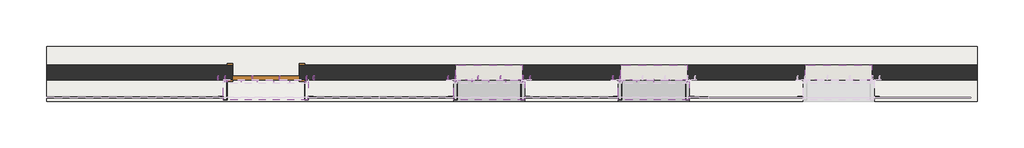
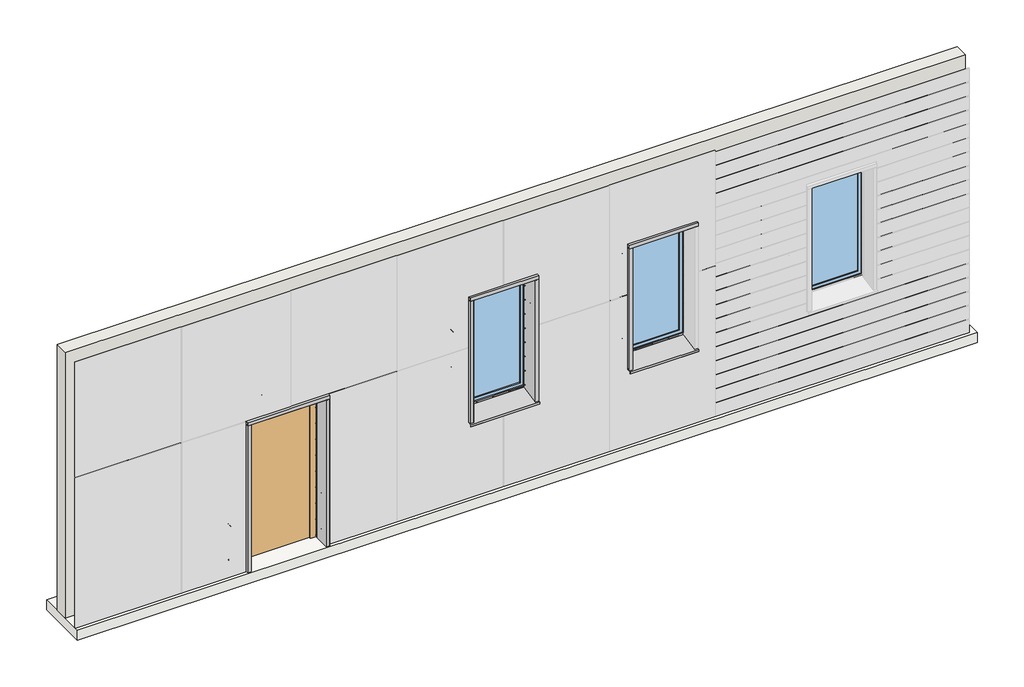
# One storey, part 1 of 2: 112 proxies, 3 windows, 1 door, 1 slab, 1 wall.
"""IFC4 building model written with IfcOpenShell, lengths in millimetres."""

from ifc_helpers import new_model, si_unit, frame, origin, place, context, project, spatial, polyline, outline, extrude, transform, mapped, element, save
from components import generic_models_632e174b, generic_models_137cf94e, generic_models_65506e06, generic_models_87b4bbea, generic_models_17260e46, generic_models_9d7912f3, generic_models_d4227f03, generic_models_8da37be1, generic_models_99237ce8, door_6a9e8738, window_5d6e8bc1

model = new_model("IFC4")

# Units and contexts
model_context = context("Model", 3, world=origin())
ifc_project = project(units=[si_unit("LENGTHUNIT", "METRE", prefix="MILLI")], contexts=[model_context])

# Site, building, storey
site = spatial("IfcSite", under=ifc_project)
building = spatial("IfcBuilding", under=site)
storey = spatial("IfcBuildingStorey", under=building, Name="Уровень 1", Elevation=0.0)

# Proxies
placement = place(None, origin())
generic_models_shape = generic_models_632e174b(model_context)
element("IfcBuildingElementProxy", 1, Name="ALT_Дюбель-гвоздь : 8х60", ObjectType="ALT_Дюбель-гвоздь : 8х60", at=placement, inside=storey, context=model_context, shape_type="MappedRepresentation", body=[
    mapped(generic_models_shape, transform((6649.3, -0.8, 1812.6666667), x_axis=(1.0, 0.0, 0.0), y_axis=(0.0, 0.0, 1.0), z_axis=(0.0, -1.0, 0.0))),
])
element("IfcBuildingElementProxy", 2, Name="ALT_Дюбель-гвоздь : 8х60", ObjectType="ALT_Дюбель-гвоздь : 8х60", at=placement, inside=storey, context=model_context, shape_type="MappedRepresentation", body=[
    mapped(generic_models_shape, transform((6649.3, -0.8, 2381.3333333), x_axis=(1.0, 0.0, 0.0), y_axis=(0.0, 0.0, 1.0), z_axis=(0.0, -1.0, 0.0))),
])
element("IfcBuildingElementProxy", 3, Name="ALT_Дюбель-гвоздь : 8х60", ObjectType="ALT_Дюбель-гвоздь : 8х60", at=placement, inside=storey, context=model_context, shape_type="MappedRepresentation", body=[
    mapped(generic_models_shape, transform((6649.3, -0.8, 1244.0), x_axis=(1.0, 0.0, 0.0), y_axis=(0.0, 0.0, 1.0), z_axis=(0.0, -1.0, 0.0))),
])
element("IfcBuildingElementProxy", 4, Name="ALT_Дюбель-гвоздь : 8х60", ObjectType="ALT_Дюбель-гвоздь : 8х60", at=placement, inside=storey, context=model_context, shape_type="MappedRepresentation", body=[
    mapped(generic_models_shape, transform((5520.7, -0.8, 1812.6666667), x_axis=(0.0, 0.0, 1.0), y_axis=(-1.0, 0.0, 0.0), z_axis=(0.0, -1.0, 0.0))),
])
element("IfcBuildingElementProxy", 5, Name="ALT_Дюбель-гвоздь : 8х60", ObjectType="ALT_Дюбель-гвоздь : 8х60", at=placement, inside=storey, context=model_context, shape_type="MappedRepresentation", body=[
    mapped(generic_models_shape, transform((5520.7, -0.8, 2381.3333333), x_axis=(0.0, 0.0, 1.0), y_axis=(-1.0, 0.0, 0.0), z_axis=(0.0, -1.0, 0.0))),
])
element("IfcBuildingElementProxy", 6, Name="ALT_Дюбель-гвоздь : 8х60", ObjectType="ALT_Дюбель-гвоздь : 8х60", at=placement, inside=storey, context=model_context, shape_type="MappedRepresentation", body=[
    mapped(generic_models_shape, transform((5520.7, -0.8, 1244.0), x_axis=(0.0, 0.0, 1.0), y_axis=(-1.0, 0.0, 0.0), z_axis=(0.0, -1.0, 0.0))),
])
element("IfcBuildingElementProxy", 7, Name="ALT_Дюбель-гвоздь : 8х60", ObjectType="ALT_Дюбель-гвоздь : 8х60", at=placement, inside=storey, context=model_context, shape_type="MappedRepresentation", body=[
    mapped(generic_models_shape, transform((5930.5, -0.8, 3100.8), x_axis=(1.0, 0.0, 0.0), y_axis=(0.0, 0.0, 1.0), z_axis=(0.0, -1.0, 0.0))),
])
element("IfcBuildingElementProxy", 8, Name="ALT_Дюбель-гвоздь : 8х60", ObjectType="ALT_Дюбель-гвоздь : 8х60", at=placement, inside=storey, context=model_context, shape_type="MappedRepresentation", body=[
    mapped(generic_models_shape, transform((6548.5, -0.8, 3100.8), x_axis=(1.0, 0.0, 0.0), y_axis=(0.0, 0.0, 1.0), z_axis=(0.0, -1.0, 0.0))),
])
element("IfcBuildingElementProxy", 9, Name="ALT_Дюбель-гвоздь : 8х60", ObjectType="ALT_Дюбель-гвоздь : 8х60", at=placement, inside=storey, context=model_context, shape_type="MappedRepresentation", body=[
    mapped(generic_models_shape, transform((6649.3, -0.8, 2950.0), x_axis=(1.0, 0.0, 0.0), y_axis=(0.0, 0.0, 1.0), z_axis=(0.0, -1.0, 0.0))),
])
element("IfcBuildingElementProxy", 10, Name="ALT_Дюбель-гвоздь : 8х60", ObjectType="ALT_Дюбель-гвоздь : 8х60", at=placement, inside=storey, context=model_context, shape_type="MappedRepresentation", body=[
    mapped(generic_models_shape, transform((5621.5, -0.8, 3100.8), x_axis=(1.0, 0.0, 0.0), y_axis=(0.0, 0.0, 1.0), z_axis=(0.0, -1.0, 0.0))),
])
element("IfcBuildingElementProxy", 11, Name="ALT_Дюбель-гвоздь : 8х60", ObjectType="ALT_Дюбель-гвоздь : 8х60", at=placement, inside=storey, context=model_context, shape_type="MappedRepresentation", body=[
    mapped(generic_models_shape, transform((5520.7, -0.8, 2950.0), x_axis=(0.0, 0.0, 1.0), y_axis=(-1.0, 0.0, 0.0), z_axis=(0.0, -1.0, 0.0))),
])
element("IfcBuildingElementProxy", 12, Name="ALT_Дюбель-гвоздь : 8х60", ObjectType="ALT_Дюбель-гвоздь : 8х60", at=placement, inside=storey, context=model_context, shape_type="MappedRepresentation", body=[
    mapped(generic_models_shape, transform((6239.5, -0.8, 3100.8), x_axis=(1.0, 0.0, 0.0), y_axis=(0.0, 0.0, 1.0), z_axis=(0.0, -1.0, 0.0))),
])
element("IfcBuildingElementProxy", 13, Name="ALT_Дюбель-гвоздь : 8х60", ObjectType="ALT_Дюбель-гвоздь : 8х60", at=placement, inside=storey, context=model_context, shape_type="MappedRepresentation", body=[
    mapped(generic_models_shape, transform((7785.7, -0.8, 1812.6666667), x_axis=(0.0, 0.0, 1.0), y_axis=(-1.0, 0.0, 0.0), z_axis=(0.0, -1.0, 0.0))),
])
element("IfcBuildingElementProxy", 14, Name="ALT_Дюбель-гвоздь : 8х60", ObjectType="ALT_Дюбель-гвоздь : 8х60", at=placement, inside=storey, context=model_context, shape_type="MappedRepresentation", body=[
    mapped(generic_models_shape, transform((7785.7, -0.8, 2381.3333333), x_axis=(0.0, 0.0, 1.0), y_axis=(-1.0, 0.0, 0.0), z_axis=(0.0, -1.0, 0.0))),
])
element("IfcBuildingElementProxy", 15, Name="ALT_Дюбель-гвоздь : 8х60", ObjectType="ALT_Дюбель-гвоздь : 8х60", at=placement, inside=storey, context=model_context, shape_type="MappedRepresentation", body=[
    mapped(generic_models_shape, transform((7785.7, -0.8, 1244.0), x_axis=(0.0, 0.0, 1.0), y_axis=(-1.0, 0.0, 0.0), z_axis=(0.0, -1.0, 0.0))),
])
element("IfcBuildingElementProxy", 16, Name="ALT_Дюбель-гвоздь : 8х60", ObjectType="ALT_Дюбель-гвоздь : 8х60", at=placement, inside=storey, context=model_context, shape_type="MappedRepresentation", body=[
    mapped(generic_models_shape, transform((7886.5, -0.8, 3100.8), x_axis=(1.0, 0.0, 0.0), y_axis=(0.0, 0.0, 1.0), z_axis=(0.0, -1.0, 0.0))),
])
element("IfcBuildingElementProxy", 17, Name="ALT_Дюбель-гвоздь : 8х60", ObjectType="ALT_Дюбель-гвоздь : 8х60", at=placement, inside=storey, context=model_context, shape_type="MappedRepresentation", body=[
    mapped(generic_models_shape, transform((7785.7, -0.8, 2950.0), x_axis=(0.0, 0.0, 1.0), y_axis=(-1.0, 0.0, 0.0), z_axis=(0.0, -1.0, 0.0))),
])
element("IfcBuildingElementProxy", 18, Name="ALT_Дюбель-гвоздь : 8х60", ObjectType="ALT_Дюбель-гвоздь : 8х60", at=placement, inside=storey, context=model_context, shape_type="MappedRepresentation", body=[
    mapped(generic_models_shape, transform((3674.3, -0.8, 2185.0), x_axis=(1.0, 0.0, 0.0), y_axis=(0.0, 0.0, 1.0), z_axis=(0.0, -1.0, 0.0))),
])
element("IfcBuildingElementProxy", 19, Name="ALT_Дюбель-гвоздь : 8х60", ObjectType="ALT_Дюбель-гвоздь : 8х60", at=placement, inside=storey, context=model_context, shape_type="MappedRepresentation", body=[
    mapped(generic_models_shape, transform((2355.7, -0.8, 2185.0), x_axis=(0.0, 0.0, 1.0), y_axis=(-1.0, 0.0, 0.0), z_axis=(0.0, -1.0, 0.0))),
])
element("IfcBuildingElementProxy", 20, Name="ALT_Дюбель-гвоздь : 8х60", ObjectType="ALT_Дюбель-гвоздь : 8х60", at=placement, inside=storey, context=model_context, shape_type="MappedRepresentation", body=[
    mapped(generic_models_shape, transform((2828.8333333, -0.8, 2335.8), x_axis=(1.0, 0.0, 0.0), y_axis=(0.0, 0.0, 1.0), z_axis=(0.0, -1.0, 0.0))),
])
element("IfcBuildingElementProxy", 21, Name="ALT_Дюбель-гвоздь : 8х60", ObjectType="ALT_Дюбель-гвоздь : 8х60", at=placement, inside=storey, context=model_context, shape_type="MappedRepresentation", body=[
    mapped(generic_models_shape, transform((3573.5, -0.8, 2335.8), x_axis=(1.0, 0.0, 0.0), y_axis=(0.0, 0.0, 1.0), z_axis=(0.0, -1.0, 0.0))),
])
element("IfcBuildingElementProxy", 22, Name="ALT_Дюбель-гвоздь : 8х60", ObjectType="ALT_Дюбель-гвоздь : 8х60", at=placement, inside=storey, context=model_context, shape_type="MappedRepresentation", body=[
    mapped(generic_models_shape, transform((2456.5, -0.8, 2335.8), x_axis=(1.0, 0.0, 0.0), y_axis=(0.0, 0.0, 1.0), z_axis=(0.0, -1.0, 0.0))),
])
element("IfcBuildingElementProxy", 23, Name="ALT_Дюбель-гвоздь : 8х60", ObjectType="ALT_Дюбель-гвоздь : 8х60", at=placement, inside=storey, context=model_context, shape_type="MappedRepresentation", body=[
    mapped(generic_models_shape, transform((2355.7, -0.8, 25.0), x_axis=(0.0, 0.0, 1.0), y_axis=(-1.0, 0.0, 0.0), z_axis=(0.0, -1.0, 0.0))),
])
element("IfcBuildingElementProxy", 24, Name="ALT_Дюбель-гвоздь : 8х60", ObjectType="ALT_Дюбель-гвоздь : 8х60", at=placement, inside=storey, context=model_context, shape_type="MappedRepresentation", body=[
    mapped(generic_models_shape, transform((3201.1666667, -0.8, 2335.8), x_axis=(1.0, 0.0, 0.0), y_axis=(0.0, 0.0, 1.0), z_axis=(0.0, -1.0, 0.0))),
])
element("IfcBuildingElementProxy", 25, Name="ALT_Дюбель-гвоздь : 8х60", ObjectType="ALT_Дюбель-гвоздь : 8х60", at=placement, inside=storey, context=model_context, shape_type="MappedRepresentation", body=[
    mapped(generic_models_shape, transform((2355.7, -0.8, 1645.0), x_axis=(0.0, 0.0, 1.0), y_axis=(-1.0, 0.0, 0.0), z_axis=(0.0, -1.0, 0.0))),
])
element("IfcBuildingElementProxy", 26, Name="ALT_Дюбель-гвоздь : 8х60", ObjectType="ALT_Дюбель-гвоздь : 8х60", at=placement, inside=storey, context=model_context, shape_type="MappedRepresentation", body=[
    mapped(generic_models_shape, transform((3674.3, -0.8, 25.0), x_axis=(1.0, 0.0, 0.0), y_axis=(0.0, 0.0, 1.0), z_axis=(0.0, -1.0, 0.0))),
])
element("IfcBuildingElementProxy", 27, Name="ALT_Дюбель-гвоздь : 8х60", ObjectType="ALT_Дюбель-гвоздь : 8х60", at=placement, inside=storey, context=model_context, shape_type="MappedRepresentation", body=[
    mapped(generic_models_shape, transform((2355.7, -0.8, 1105.0), x_axis=(0.0, 0.0, 1.0), y_axis=(-1.0, 0.0, 0.0), z_axis=(0.0, -1.0, 0.0))),
])
element("IfcBuildingElementProxy", 28, Name="ALT_Дюбель-гвоздь : 8х60", ObjectType="ALT_Дюбель-гвоздь : 8х60", at=placement, inside=storey, context=model_context, shape_type="MappedRepresentation", body=[
    mapped(generic_models_shape, transform((3674.3, -0.8, 1645.0), x_axis=(1.0, 0.0, 0.0), y_axis=(0.0, 0.0, 1.0), z_axis=(0.0, -1.0, 0.0))),
])
element("IfcBuildingElementProxy", 29, Name="ALT_Дюбель-гвоздь : 8х60", ObjectType="ALT_Дюбель-гвоздь : 8х60", at=placement, inside=storey, context=model_context, shape_type="MappedRepresentation", body=[
    mapped(generic_models_shape, transform((3674.3, -0.8, 565.0), x_axis=(1.0, 0.0, 0.0), y_axis=(0.0, 0.0, 1.0), z_axis=(0.0, -1.0, 0.0))),
])
element("IfcBuildingElementProxy", 30, Name="ALT_Дюбель-гвоздь : 8х60", ObjectType="ALT_Дюбель-гвоздь : 8х60", at=placement, inside=storey, context=model_context, shape_type="MappedRepresentation", body=[
    mapped(generic_models_shape, transform((2355.7, -0.8, 565.0), x_axis=(0.0, 0.0, 1.0), y_axis=(-1.0, 0.0, 0.0), z_axis=(0.0, -1.0, 0.0))),
])
element("IfcBuildingElementProxy", 31, Name="ALT_Дюбель-гвоздь : 8х60", ObjectType="ALT_Дюбель-гвоздь : 8х60", at=placement, inside=storey, context=model_context, shape_type="MappedRepresentation", body=[
    mapped(generic_models_shape, transform((3674.3, -0.8, 1105.0), x_axis=(1.0, 0.0, 0.0), y_axis=(0.0, 0.0, 1.0), z_axis=(0.0, -1.0, 0.0))),
])
generic_models_2_shape = generic_models_137cf94e(model_context)
element("IfcBuildingElementProxy", 32, Name="ALT_Заклёпка вытяжная : ∅4x6_А2/А2", ObjectType="ALT_Заклёпка вытяжная : ∅4x6_А2/А2", at=placement, inside=storey, context=model_context, shape_type="MappedRepresentation", body=[
    mapped(generic_models_2_shape, transform((6085.0, -0.8, 1204.0), x_axis=(-1.0, 0.0, 0.0), y_axis=(0.0, 0.0, -1.0), z_axis=(0.0, -1.0, 0.0))),
])
element("IfcBuildingElementProxy", 33, Name="ALT_Заклёпка вытяжная : ∅4x6_А2/А2", ObjectType="ALT_Заклёпка вытяжная : ∅4x6_А2/А2", at=placement, inside=storey, context=model_context, shape_type="MappedRepresentation", body=[
    mapped(generic_models_2_shape, transform((5853.25, -0.8, 1204.0), x_axis=(-1.0, 0.0, 0.0), y_axis=(0.0, 0.0, -1.0), z_axis=(0.0, -1.0, 0.0))),
])
element("IfcBuildingElementProxy", 34, Name="ALT_Заклёпка вытяжная : ∅4x6_А2/А2", ObjectType="ALT_Заклёпка вытяжная : ∅4x6_А2/А2", at=placement, inside=storey, context=model_context, shape_type="MappedRepresentation", body=[
    mapped(generic_models_2_shape, transform((6548.5, -0.8, 1204.0), x_axis=(-1.0, 0.0, 0.0), y_axis=(0.0, 0.0, -1.0), z_axis=(0.0, -1.0, 0.0))),
])
element("IfcBuildingElementProxy", 35, Name="ALT_Заклёпка вытяжная : ∅4x6_А2/А2", ObjectType="ALT_Заклёпка вытяжная : ∅4x6_А2/А2", at=placement, inside=storey, context=model_context, shape_type="MappedRepresentation", body=[
    mapped(generic_models_2_shape, transform((5621.5, -0.8, 1204.0), x_axis=(-1.0, 0.0, 0.0), y_axis=(0.0, 0.0, -1.0), z_axis=(0.0, -1.0, 0.0))),
])
element("IfcBuildingElementProxy", 36, Name="ALT_Заклёпка вытяжная : ∅4x6_А2/А2", ObjectType="ALT_Заклёпка вытяжная : ∅4x6_А2/А2", at=placement, inside=storey, context=model_context, shape_type="MappedRepresentation", body=[
    mapped(generic_models_2_shape, transform((6085.0, -25.0, 2975.0), x_axis=(-1.0, 0.0, 0.0), y_axis=(0.0, 1.0, 0.0), z_axis=(0.0, 0.0, -1.0))),
])
element("IfcBuildingElementProxy", 37, Name="ALT_Заклёпка вытяжная : ∅4x6_А2/А2", ObjectType="ALT_Заклёпка вытяжная : ∅4x6_А2/А2", at=placement, inside=storey, context=model_context, shape_type="MappedRepresentation", body=[
    mapped(generic_models_2_shape, transform((5853.25, -25.0, 2975.0), x_axis=(-1.0, 0.0, 0.0), y_axis=(0.0, 1.0, 0.0), z_axis=(0.0, 0.0, -1.0))),
])
element("IfcBuildingElementProxy", 38, Name="ALT_Заклёпка вытяжная : ∅4x6_А2/А2", ObjectType="ALT_Заклёпка вытяжная : ∅4x6_А2/А2", at=placement, inside=storey, context=model_context, shape_type="MappedRepresentation", body=[
    mapped(generic_models_2_shape, transform((6548.5, -25.0, 2975.0), x_axis=(-1.0, 0.0, 0.0), y_axis=(0.0, 1.0, 0.0), z_axis=(0.0, 0.0, -1.0))),
])
element("IfcBuildingElementProxy", 39, Name="ALT_Заклёпка вытяжная : ∅4x6_А2/А2", ObjectType="ALT_Заклёпка вытяжная : ∅4x6_А2/А2", at=placement, inside=storey, context=model_context, shape_type="MappedRepresentation", body=[
    mapped(generic_models_2_shape, transform((6523.5, -25.0, 1883.75), x_axis=(0.0, 0.0, 1.0), y_axis=(0.0, 1.0, 0.0), z_axis=(-1.0, 0.0, 0.0))),
])
element("IfcBuildingElementProxy", 40, Name="ALT_Заклёпка вытяжная : ∅4x6_А2/А2", ObjectType="ALT_Заклёпка вытяжная : ∅4x6_А2/А2", at=placement, inside=storey, context=model_context, shape_type="MappedRepresentation", body=[
    mapped(generic_models_2_shape, transform((6523.5, -25.0, 2097.0), x_axis=(0.0, 0.0, 1.0), y_axis=(0.0, 1.0, 0.0), z_axis=(-1.0, 0.0, 0.0))),
])
element("IfcBuildingElementProxy", 41, Name="ALT_Заклёпка вытяжная : ∅4x6_А2/А2", ObjectType="ALT_Заклёпка вытяжная : ∅4x6_А2/А2", at=placement, inside=storey, context=model_context, shape_type="MappedRepresentation", body=[
    mapped(generic_models_2_shape, transform((6523.5, -25.0, 2310.25), x_axis=(0.0, 0.0, 1.0), y_axis=(0.0, 1.0, 0.0), z_axis=(-1.0, 0.0, 0.0))),
])
element("IfcBuildingElementProxy", 42, Name="ALT_Заклёпка вытяжная : ∅4x6_А2/А2", ObjectType="ALT_Заклёпка вытяжная : ∅4x6_А2/А2", at=placement, inside=storey, context=model_context, shape_type="MappedRepresentation", body=[
    mapped(generic_models_2_shape, transform((6523.5, -25.0, 2523.5), x_axis=(0.0, 0.0, 1.0), y_axis=(0.0, 1.0, 0.0), z_axis=(-1.0, 0.0, 0.0))),
])
element("IfcBuildingElementProxy", 43, Name="ALT_Заклёпка вытяжная : ∅4x6_А2/А2", ObjectType="ALT_Заклёпка вытяжная : ∅4x6_А2/А2", at=placement, inside=storey, context=model_context, shape_type="MappedRepresentation", body=[
    mapped(generic_models_2_shape, transform((6523.5, -25.0, 2736.75), x_axis=(0.0, 0.0, 1.0), y_axis=(0.0, 1.0, 0.0), z_axis=(-1.0, 0.0, 0.0))),
])
element("IfcBuildingElementProxy", 44, Name="ALT_Заклёпка вытяжная : ∅4x6_А2/А2", ObjectType="ALT_Заклёпка вытяжная : ∅4x6_А2/А2", at=placement, inside=storey, context=model_context, shape_type="MappedRepresentation", body=[
    mapped(generic_models_2_shape, transform((6523.5, -25.0, 1244.0), x_axis=(0.0, 0.0, 1.0), y_axis=(0.0, 1.0, 0.0), z_axis=(-1.0, 0.0, 0.0))),
])
element("IfcBuildingElementProxy", 45, Name="ALT_Заклёпка вытяжная : ∅4x6_А2/А2", ObjectType="ALT_Заклёпка вытяжная : ∅4x6_А2/А2", at=placement, inside=storey, context=model_context, shape_type="MappedRepresentation", body=[
    mapped(generic_models_2_shape, transform((5646.5, -25.0, 1883.75), x_axis=(0.0, 1.0, 0.0), y_axis=(0.0, 0.0, 1.0), z_axis=(1.0, 0.0, 0.0))),
])
element("IfcBuildingElementProxy", 46, Name="ALT_Заклёпка вытяжная : ∅4x6_А2/А2", ObjectType="ALT_Заклёпка вытяжная : ∅4x6_А2/А2", at=placement, inside=storey, context=model_context, shape_type="MappedRepresentation", body=[
    mapped(generic_models_2_shape, transform((5646.5, -25.0, 2097.0), x_axis=(0.0, 1.0, 0.0), y_axis=(0.0, 0.0, 1.0), z_axis=(1.0, 0.0, 0.0))),
])
element("IfcBuildingElementProxy", 47, Name="ALT_Заклёпка вытяжная : ∅4x6_А2/А2", ObjectType="ALT_Заклёпка вытяжная : ∅4x6_А2/А2", at=placement, inside=storey, context=model_context, shape_type="MappedRepresentation", body=[
    mapped(generic_models_2_shape, transform((5646.5, -25.0, 2310.25), x_axis=(0.0, 1.0, 0.0), y_axis=(0.0, 0.0, 1.0), z_axis=(1.0, 0.0, 0.0))),
])
element("IfcBuildingElementProxy", 48, Name="ALT_Заклёпка вытяжная : ∅4x6_А2/А2", ObjectType="ALT_Заклёпка вытяжная : ∅4x6_А2/А2", at=placement, inside=storey, context=model_context, shape_type="MappedRepresentation", body=[
    mapped(generic_models_2_shape, transform((5646.5, -25.0, 2523.5), x_axis=(0.0, 1.0, 0.0), y_axis=(0.0, 0.0, 1.0), z_axis=(1.0, 0.0, 0.0))),
])
element("IfcBuildingElementProxy", 49, Name="ALT_Заклёпка вытяжная : ∅4x6_А2/А2", ObjectType="ALT_Заклёпка вытяжная : ∅4x6_А2/А2", at=placement, inside=storey, context=model_context, shape_type="MappedRepresentation", body=[
    mapped(generic_models_2_shape, transform((5646.5, -25.0, 2736.75), x_axis=(0.0, 1.0, 0.0), y_axis=(0.0, 0.0, 1.0), z_axis=(1.0, 0.0, 0.0))),
])
element("IfcBuildingElementProxy", 50, Name="ALT_Заклёпка вытяжная : ∅4x6_А2/А2", ObjectType="ALT_Заклёпка вытяжная : ∅4x6_А2/А2", at=placement, inside=storey, context=model_context, shape_type="MappedRepresentation", body=[
    mapped(generic_models_2_shape, transform((5646.5, -25.0, 1244.0), x_axis=(0.0, 1.0, 0.0), y_axis=(0.0, 0.0, 1.0), z_axis=(1.0, 0.0, 0.0))),
])
element("IfcBuildingElementProxy", 51, Name="ALT_Заклёпка вытяжная : ∅4x6_А2/А2", ObjectType="ALT_Заклёпка вытяжная : ∅4x6_А2/А2", at=placement, inside=storey, context=model_context, shape_type="MappedRepresentation", body=[
    mapped(generic_models_2_shape, transform((6523.5, -25.0, 2950.0), x_axis=(0.0, 0.0, 1.0), y_axis=(0.0, 1.0, 0.0), z_axis=(-1.0, 0.0, 0.0))),
])
element("IfcBuildingElementProxy", 52, Name="ALT_Заклёпка вытяжная : ∅4x6_А2/А2", ObjectType="ALT_Заклёпка вытяжная : ∅4x6_А2/А2", at=placement, inside=storey, context=model_context, shape_type="MappedRepresentation", body=[
    mapped(generic_models_2_shape, transform((5621.5, -25.0, 2975.0), x_axis=(-1.0, 0.0, 0.0), y_axis=(0.0, 1.0, 0.0), z_axis=(0.0, 0.0, -1.0))),
])
element("IfcBuildingElementProxy", 53, Name="ALT_Заклёпка вытяжная : ∅4x6_А2/А2", ObjectType="ALT_Заклёпка вытяжная : ∅4x6_А2/А2", at=placement, inside=storey, context=model_context, shape_type="MappedRepresentation", body=[
    mapped(generic_models_2_shape, transform((5646.5, -25.0, 2950.0), x_axis=(0.0, 1.0, 0.0), y_axis=(0.0, 0.0, 1.0), z_axis=(1.0, 0.0, 0.0))),
])
element("IfcBuildingElementProxy", 54, Name="ALT_Заклёпка вытяжная : ∅4x6_А2/А2", ObjectType="ALT_Заклёпка вытяжная : ∅4x6_А2/А2", at=placement, inside=storey, context=model_context, shape_type="MappedRepresentation", body=[
    mapped(generic_models_2_shape, transform((6316.75, -0.8, 1204.0), x_axis=(-1.0, 0.0, 0.0), y_axis=(0.0, 0.0, -1.0), z_axis=(0.0, -1.0, 0.0))),
])
element("IfcBuildingElementProxy", 55, Name="ALT_Заклёпка вытяжная : ∅4x6_А2/А2", ObjectType="ALT_Заклёпка вытяжная : ∅4x6_А2/А2", at=placement, inside=storey, context=model_context, shape_type="MappedRepresentation", body=[
    mapped(generic_models_2_shape, transform((6316.75, -25.0, 2975.0), x_axis=(-1.0, 0.0, 0.0), y_axis=(0.0, 1.0, 0.0), z_axis=(0.0, 0.0, -1.0))),
])
element("IfcBuildingElementProxy", 56, Name="ALT_Заклёпка вытяжная : ∅4x6_А2/А2", ObjectType="ALT_Заклёпка вытяжная : ∅4x6_А2/А2", at=placement, inside=storey, context=model_context, shape_type="MappedRepresentation", body=[
    mapped(generic_models_2_shape, transform((5646.5, -25.0, 1457.25), x_axis=(0.0, 1.0, 0.0), y_axis=(0.0, 0.0, 1.0), z_axis=(1.0, 0.0, 0.0))),
])
element("IfcBuildingElementProxy", 57, Name="ALT_Заклёпка вытяжная : ∅4x6_А2/А2", ObjectType="ALT_Заклёпка вытяжная : ∅4x6_А2/А2", at=placement, inside=storey, context=model_context, shape_type="MappedRepresentation", body=[
    mapped(generic_models_2_shape, transform((5646.5, -25.0, 1670.5), x_axis=(0.0, 1.0, 0.0), y_axis=(0.0, 0.0, 1.0), z_axis=(1.0, 0.0, 0.0))),
])
element("IfcBuildingElementProxy", 58, Name="ALT_Заклёпка вытяжная : ∅4x6_А2/А2", ObjectType="ALT_Заклёпка вытяжная : ∅4x6_А2/А2", at=placement, inside=storey, context=model_context, shape_type="MappedRepresentation", body=[
    mapped(generic_models_2_shape, transform((6523.5, -25.0, 1457.25), x_axis=(0.0, 0.0, 1.0), y_axis=(0.0, 1.0, 0.0), z_axis=(-1.0, 0.0, 0.0))),
])
element("IfcBuildingElementProxy", 59, Name="ALT_Заклёпка вытяжная : ∅4x6_А2/А2", ObjectType="ALT_Заклёпка вытяжная : ∅4x6_А2/А2", at=placement, inside=storey, context=model_context, shape_type="MappedRepresentation", body=[
    mapped(generic_models_2_shape, transform((6523.5, -25.0, 1670.5), x_axis=(0.0, 0.0, 1.0), y_axis=(0.0, 1.0, 0.0), z_axis=(-1.0, 0.0, 0.0))),
])
element("IfcBuildingElementProxy", 60, Name="ALT_Заклёпка вытяжная : ∅4x6_А2/А2", ObjectType="ALT_Заклёпка вытяжная : ∅4x6_А2/А2", at=placement, inside=storey, context=model_context, shape_type="MappedRepresentation", body=[
    mapped(generic_models_2_shape, transform((8350.0, -0.8, 1204.0), x_axis=(-1.0, 0.0, 0.0), y_axis=(0.0, 0.0, -1.0), z_axis=(0.0, -1.0, 0.0))),
])
element("IfcBuildingElementProxy", 61, Name="ALT_Заклёпка вытяжная : ∅4x6_А2/А2", ObjectType="ALT_Заклёпка вытяжная : ∅4x6_А2/А2", at=placement, inside=storey, context=model_context, shape_type="MappedRepresentation", body=[
    mapped(generic_models_2_shape, transform((8118.25, -0.8, 1204.0), x_axis=(-1.0, 0.0, 0.0), y_axis=(0.0, 0.0, -1.0), z_axis=(0.0, -1.0, 0.0))),
])
element("IfcBuildingElementProxy", 62, Name="ALT_Заклёпка вытяжная : ∅4x6_А2/А2", ObjectType="ALT_Заклёпка вытяжная : ∅4x6_А2/А2", at=placement, inside=storey, context=model_context, shape_type="MappedRepresentation", body=[
    mapped(generic_models_2_shape, transform((8813.5, -0.8, 1204.0), x_axis=(-1.0, 0.0, 0.0), y_axis=(0.0, 0.0, -1.0), z_axis=(0.0, -1.0, 0.0))),
])
element("IfcBuildingElementProxy", 63, Name="ALT_Заклёпка вытяжная : ∅4x6_А2/А2", ObjectType="ALT_Заклёпка вытяжная : ∅4x6_А2/А2", at=placement, inside=storey, context=model_context, shape_type="MappedRepresentation", body=[
    mapped(generic_models_2_shape, transform((7886.5, -0.8, 1204.0), x_axis=(-1.0, 0.0, 0.0), y_axis=(0.0, 0.0, -1.0), z_axis=(0.0, -1.0, 0.0))),
])
element("IfcBuildingElementProxy", 64, Name="ALT_Заклёпка вытяжная : ∅4x6_А2/А2", ObjectType="ALT_Заклёпка вытяжная : ∅4x6_А2/А2", at=placement, inside=storey, context=model_context, shape_type="MappedRepresentation", body=[
    mapped(generic_models_2_shape, transform((8350.0, -25.0, 2975.0), x_axis=(-1.0, 0.0, 0.0), y_axis=(0.0, 1.0, 0.0), z_axis=(0.0, 0.0, -1.0))),
])
element("IfcBuildingElementProxy", 65, Name="ALT_Заклёпка вытяжная : ∅4x6_А2/А2", ObjectType="ALT_Заклёпка вытяжная : ∅4x6_А2/А2", at=placement, inside=storey, context=model_context, shape_type="MappedRepresentation", body=[
    mapped(generic_models_2_shape, transform((8118.25, -25.0, 2975.0), x_axis=(-1.0, 0.0, 0.0), y_axis=(0.0, 1.0, 0.0), z_axis=(0.0, 0.0, -1.0))),
])
element("IfcBuildingElementProxy", 66, Name="ALT_Заклёпка вытяжная : ∅4x6_А2/А2", ObjectType="ALT_Заклёпка вытяжная : ∅4x6_А2/А2", at=placement, inside=storey, context=model_context, shape_type="MappedRepresentation", body=[
    mapped(generic_models_2_shape, transform((8813.5, -25.0, 2975.0), x_axis=(-1.0, 0.0, 0.0), y_axis=(0.0, 1.0, 0.0), z_axis=(0.0, 0.0, -1.0))),
])
element("IfcBuildingElementProxy", 67, Name="ALT_Заклёпка вытяжная : ∅4x6_А2/А2", ObjectType="ALT_Заклёпка вытяжная : ∅4x6_А2/А2", at=placement, inside=storey, context=model_context, shape_type="MappedRepresentation", body=[
    mapped(generic_models_2_shape, transform((7911.5, -25.0, 1883.75), x_axis=(0.0, 1.0, 0.0), y_axis=(0.0, 0.0, 1.0), z_axis=(1.0, 0.0, 0.0))),
])
element("IfcBuildingElementProxy", 68, Name="ALT_Заклёпка вытяжная : ∅4x6_А2/А2", ObjectType="ALT_Заклёпка вытяжная : ∅4x6_А2/А2", at=placement, inside=storey, context=model_context, shape_type="MappedRepresentation", body=[
    mapped(generic_models_2_shape, transform((7911.5, -25.0, 2097.0), x_axis=(0.0, 1.0, 0.0), y_axis=(0.0, 0.0, 1.0), z_axis=(1.0, 0.0, 0.0))),
])
element("IfcBuildingElementProxy", 69, Name="ALT_Заклёпка вытяжная : ∅4x6_А2/А2", ObjectType="ALT_Заклёпка вытяжная : ∅4x6_А2/А2", at=placement, inside=storey, context=model_context, shape_type="MappedRepresentation", body=[
    mapped(generic_models_2_shape, transform((7911.5, -25.0, 2310.25), x_axis=(0.0, 1.0, 0.0), y_axis=(0.0, 0.0, 1.0), z_axis=(1.0, 0.0, 0.0))),
])
element("IfcBuildingElementProxy", 70, Name="ALT_Заклёпка вытяжная : ∅4x6_А2/А2", ObjectType="ALT_Заклёпка вытяжная : ∅4x6_А2/А2", at=placement, inside=storey, context=model_context, shape_type="MappedRepresentation", body=[
    mapped(generic_models_2_shape, transform((7911.5, -25.0, 2523.5), x_axis=(0.0, 1.0, 0.0), y_axis=(0.0, 0.0, 1.0), z_axis=(1.0, 0.0, 0.0))),
])
element("IfcBuildingElementProxy", 71, Name="ALT_Заклёпка вытяжная : ∅4x6_А2/А2", ObjectType="ALT_Заклёпка вытяжная : ∅4x6_А2/А2", at=placement, inside=storey, context=model_context, shape_type="MappedRepresentation", body=[
    mapped(generic_models_2_shape, transform((7911.5, -25.0, 2736.75), x_axis=(0.0, 1.0, 0.0), y_axis=(0.0, 0.0, 1.0), z_axis=(1.0, 0.0, 0.0))),
])
element("IfcBuildingElementProxy", 72, Name="ALT_Заклёпка вытяжная : ∅4x6_А2/А2", ObjectType="ALT_Заклёпка вытяжная : ∅4x6_А2/А2", at=placement, inside=storey, context=model_context, shape_type="MappedRepresentation", body=[
    mapped(generic_models_2_shape, transform((7911.5, -25.0, 1244.0), x_axis=(0.0, 1.0, 0.0), y_axis=(0.0, 0.0, 1.0), z_axis=(1.0, 0.0, 0.0))),
])
element("IfcBuildingElementProxy", 73, Name="ALT_Заклёпка вытяжная : ∅4x6_А2/А2", ObjectType="ALT_Заклёпка вытяжная : ∅4x6_А2/А2", at=placement, inside=storey, context=model_context, shape_type="MappedRepresentation", body=[
    mapped(generic_models_2_shape, transform((7886.5, -25.0, 2975.0), x_axis=(-1.0, 0.0, 0.0), y_axis=(0.0, 1.0, 0.0), z_axis=(0.0, 0.0, -1.0))),
])
element("IfcBuildingElementProxy", 74, Name="ALT_Заклёпка вытяжная : ∅4x6_А2/А2", ObjectType="ALT_Заклёпка вытяжная : ∅4x6_А2/А2", at=placement, inside=storey, context=model_context, shape_type="MappedRepresentation", body=[
    mapped(generic_models_2_shape, transform((7911.5, -25.0, 2950.0), x_axis=(0.0, 1.0, 0.0), y_axis=(0.0, 0.0, 1.0), z_axis=(1.0, 0.0, 0.0))),
])
element("IfcBuildingElementProxy", 75, Name="ALT_Заклёпка вытяжная : ∅4x6_А2/А2", ObjectType="ALT_Заклёпка вытяжная : ∅4x6_А2/А2", at=placement, inside=storey, context=model_context, shape_type="MappedRepresentation", body=[
    mapped(generic_models_2_shape, transform((7911.5, -25.0, 1457.25), x_axis=(0.0, 1.0, 0.0), y_axis=(0.0, 0.0, 1.0), z_axis=(1.0, 0.0, 0.0))),
])
element("IfcBuildingElementProxy", 76, Name="ALT_Заклёпка вытяжная : ∅4x6_А2/А2", ObjectType="ALT_Заклёпка вытяжная : ∅4x6_А2/А2", at=placement, inside=storey, context=model_context, shape_type="MappedRepresentation", body=[
    mapped(generic_models_2_shape, transform((7911.5, -25.0, 1670.5), x_axis=(0.0, 1.0, 0.0), y_axis=(0.0, 0.0, 1.0), z_axis=(1.0, 0.0, 0.0))),
])
element("IfcBuildingElementProxy", 77, Name="ALT_Заклёпка вытяжная : ∅4x6_А2/А2", ObjectType="ALT_Заклёпка вытяжная : ∅4x6_А2/А2", at=placement, inside=storey, context=model_context, shape_type="MappedRepresentation", body=[
    mapped(generic_models_2_shape, transform((3548.5, -25.0, 2185.0), x_axis=(0.0, 0.0, 1.0), y_axis=(0.0, 1.0, 0.0), z_axis=(-1.0, 0.0, 0.0))),
])
element("IfcBuildingElementProxy", 78, Name="ALT_Заклёпка вытяжная : ∅4x6_А2/А2", ObjectType="ALT_Заклёпка вытяжная : ∅4x6_А2/А2", at=placement, inside=storey, context=model_context, shape_type="MappedRepresentation", body=[
    mapped(generic_models_2_shape, transform((2481.5, -25.0, 2185.0), x_axis=(0.0, 1.0, 0.0), y_axis=(0.0, 0.0, 1.0), z_axis=(1.0, 0.0, 0.0))),
])
element("IfcBuildingElementProxy", 79, Name="ALT_Заклёпка вытяжная : ∅4x6_А2/А2", ObjectType="ALT_Заклёпка вытяжная : ∅4x6_А2/А2", at=placement, inside=storey, context=model_context, shape_type="MappedRepresentation", body=[
    mapped(generic_models_2_shape, transform((2903.3, -25.0, 2210.0), x_axis=(-1.0, 0.0, 0.0), y_axis=(0.0, 1.0, 0.0), z_axis=(0.0, 0.0, -1.0))),
])
element("IfcBuildingElementProxy", 80, Name="ALT_Заклёпка вытяжная : ∅4x6_А2/А2", ObjectType="ALT_Заклёпка вытяжная : ∅4x6_А2/А2", at=placement, inside=storey, context=model_context, shape_type="MappedRepresentation", body=[
    mapped(generic_models_2_shape, transform((2679.9, -25.0, 2210.0), x_axis=(-1.0, 0.0, 0.0), y_axis=(0.0, 1.0, 0.0), z_axis=(0.0, 0.0, -1.0))),
])
element("IfcBuildingElementProxy", 81, Name="ALT_Заклёпка вытяжная : ∅4x6_А2/А2", ObjectType="ALT_Заклёпка вытяжная : ∅4x6_А2/А2", at=placement, inside=storey, context=model_context, shape_type="MappedRepresentation", body=[
    mapped(generic_models_2_shape, transform((3573.5, -25.0, 2210.0), x_axis=(-1.0, 0.0, 0.0), y_axis=(0.0, 1.0, 0.0), z_axis=(0.0, 0.0, -1.0))),
])
element("IfcBuildingElementProxy", 82, Name="ALT_Заклёпка вытяжная : ∅4x6_А2/А2", ObjectType="ALT_Заклёпка вытяжная : ∅4x6_А2/А2", at=placement, inside=storey, context=model_context, shape_type="MappedRepresentation", body=[
    mapped(generic_models_2_shape, transform((2456.5, -25.0, 2210.0), x_axis=(-1.0, 0.0, 0.0), y_axis=(0.0, 1.0, 0.0), z_axis=(0.0, 0.0, -1.0))),
])
element("IfcBuildingElementProxy", 83, Name="ALT_Заклёпка вытяжная : ∅4x6_А2/А2", ObjectType="ALT_Заклёпка вытяжная : ∅4x6_А2/А2", at=placement, inside=storey, context=model_context, shape_type="MappedRepresentation", body=[
    mapped(generic_models_2_shape, transform((3126.7, -25.0, 2210.0), x_axis=(-1.0, 0.0, 0.0), y_axis=(0.0, 1.0, 0.0), z_axis=(0.0, 0.0, -1.0))),
])
element("IfcBuildingElementProxy", 84, Name="ALT_Заклёпка вытяжная : ∅4x6_А2/А2", ObjectType="ALT_Заклёпка вытяжная : ∅4x6_А2/А2", at=placement, inside=storey, context=model_context, shape_type="MappedRepresentation", body=[
    mapped(generic_models_2_shape, transform((3548.5, -25.0, 265.0), x_axis=(0.0, 0.0, 1.0), y_axis=(0.0, 1.0, 0.0), z_axis=(-1.0, 0.0, 0.0))),
])
element("IfcBuildingElementProxy", 85, Name="ALT_Заклёпка вытяжная : ∅4x6_А2/А2", ObjectType="ALT_Заклёпка вытяжная : ∅4x6_А2/А2", at=placement, inside=storey, context=model_context, shape_type="MappedRepresentation", body=[
    mapped(generic_models_2_shape, transform((3548.5, -25.0, 505.0), x_axis=(0.0, 0.0, 1.0), y_axis=(0.0, 1.0, 0.0), z_axis=(-1.0, 0.0, 0.0))),
])
element("IfcBuildingElementProxy", 86, Name="ALT_Заклёпка вытяжная : ∅4x6_А2/А2", ObjectType="ALT_Заклёпка вытяжная : ∅4x6_А2/А2", at=placement, inside=storey, context=model_context, shape_type="MappedRepresentation", body=[
    mapped(generic_models_2_shape, transform((3548.5, -25.0, 745.0), x_axis=(0.0, 0.0, 1.0), y_axis=(0.0, 1.0, 0.0), z_axis=(-1.0, 0.0, 0.0))),
])
element("IfcBuildingElementProxy", 87, Name="ALT_Заклёпка вытяжная : ∅4x6_А2/А2", ObjectType="ALT_Заклёпка вытяжная : ∅4x6_А2/А2", at=placement, inside=storey, context=model_context, shape_type="MappedRepresentation", body=[
    mapped(generic_models_2_shape, transform((2481.5, -25.0, 265.0), x_axis=(0.0, 1.0, 0.0), y_axis=(0.0, 0.0, 1.0), z_axis=(1.0, 0.0, 0.0))),
])
element("IfcBuildingElementProxy", 88, Name="ALT_Заклёпка вытяжная : ∅4x6_А2/А2", ObjectType="ALT_Заклёпка вытяжная : ∅4x6_А2/А2", at=placement, inside=storey, context=model_context, shape_type="MappedRepresentation", body=[
    mapped(generic_models_2_shape, transform((2481.5, -25.0, 505.0), x_axis=(0.0, 1.0, 0.0), y_axis=(0.0, 0.0, 1.0), z_axis=(1.0, 0.0, 0.0))),
])
element("IfcBuildingElementProxy", 89, Name="ALT_Заклёпка вытяжная : ∅4x6_А2/А2", ObjectType="ALT_Заклёпка вытяжная : ∅4x6_А2/А2", at=placement, inside=storey, context=model_context, shape_type="MappedRepresentation", body=[
    mapped(generic_models_2_shape, transform((2481.5, -25.0, 745.0), x_axis=(0.0, 1.0, 0.0), y_axis=(0.0, 0.0, 1.0), z_axis=(1.0, 0.0, 0.0))),
])
element("IfcBuildingElementProxy", 90, Name="ALT_Заклёпка вытяжная : ∅4x6_А2/А2", ObjectType="ALT_Заклёпка вытяжная : ∅4x6_А2/А2", at=placement, inside=storey, context=model_context, shape_type="MappedRepresentation", body=[
    mapped(generic_models_2_shape, transform((3350.1, -25.0, 2210.0), x_axis=(-1.0, 0.0, 0.0), y_axis=(0.0, 1.0, 0.0), z_axis=(0.0, 0.0, -1.0))),
])
element("IfcBuildingElementProxy", 91, Name="ALT_Заклёпка вытяжная : ∅4x6_А2/А2", ObjectType="ALT_Заклёпка вытяжная : ∅4x6_А2/А2", at=placement, inside=storey, context=model_context, shape_type="MappedRepresentation", body=[
    mapped(generic_models_2_shape, transform((3548.5, -25.0, 985.0), x_axis=(0.0, 0.0, 1.0), y_axis=(0.0, 1.0, 0.0), z_axis=(-1.0, 0.0, 0.0))),
])
element("IfcBuildingElementProxy", 92, Name="ALT_Заклёпка вытяжная : ∅4x6_А2/А2", ObjectType="ALT_Заклёпка вытяжная : ∅4x6_А2/А2", at=placement, inside=storey, context=model_context, shape_type="MappedRepresentation", body=[
    mapped(generic_models_2_shape, transform((3548.5, -25.0, 1225.0), x_axis=(0.0, 0.0, 1.0), y_axis=(0.0, 1.0, 0.0), z_axis=(-1.0, 0.0, 0.0))),
])
element("IfcBuildingElementProxy", 93, Name="ALT_Заклёпка вытяжная : ∅4x6_А2/А2", ObjectType="ALT_Заклёпка вытяжная : ∅4x6_А2/А2", at=placement, inside=storey, context=model_context, shape_type="MappedRepresentation", body=[
    mapped(generic_models_2_shape, transform((3548.5, -25.0, 1465.0), x_axis=(0.0, 0.0, 1.0), y_axis=(0.0, 1.0, 0.0), z_axis=(-1.0, 0.0, 0.0))),
])
element("IfcBuildingElementProxy", 94, Name="ALT_Заклёпка вытяжная : ∅4x6_А2/А2", ObjectType="ALT_Заклёпка вытяжная : ∅4x6_А2/А2", at=placement, inside=storey, context=model_context, shape_type="MappedRepresentation", body=[
    mapped(generic_models_2_shape, transform((3548.5, -25.0, 1705.0), x_axis=(0.0, 0.0, 1.0), y_axis=(0.0, 1.0, 0.0), z_axis=(-1.0, 0.0, 0.0))),
])
element("IfcBuildingElementProxy", 95, Name="ALT_Заклёпка вытяжная : ∅4x6_А2/А2", ObjectType="ALT_Заклёпка вытяжная : ∅4x6_А2/А2", at=placement, inside=storey, context=model_context, shape_type="MappedRepresentation", body=[
    mapped(generic_models_2_shape, transform((3548.5, -25.0, 1945.0), x_axis=(0.0, 0.0, 1.0), y_axis=(0.0, 1.0, 0.0), z_axis=(-1.0, 0.0, 0.0))),
])
element("IfcBuildingElementProxy", 96, Name="ALT_Заклёпка вытяжная : ∅4x6_А2/А2", ObjectType="ALT_Заклёпка вытяжная : ∅4x6_А2/А2", at=placement, inside=storey, context=model_context, shape_type="MappedRepresentation", body=[
    mapped(generic_models_2_shape, transform((3548.5, -25.0, 25.0), x_axis=(0.0, 0.0, 1.0), y_axis=(0.0, 1.0, 0.0), z_axis=(-1.0, 0.0, 0.0))),
])
element("IfcBuildingElementProxy", 97, Name="ALT_Заклёпка вытяжная : ∅4x6_А2/А2", ObjectType="ALT_Заклёпка вытяжная : ∅4x6_А2/А2", at=placement, inside=storey, context=model_context, shape_type="MappedRepresentation", body=[
    mapped(generic_models_2_shape, transform((2481.5, -25.0, 985.0), x_axis=(0.0, 1.0, 0.0), y_axis=(0.0, 0.0, 1.0), z_axis=(1.0, 0.0, 0.0))),
])
element("IfcBuildingElementProxy", 98, Name="ALT_Заклёпка вытяжная : ∅4x6_А2/А2", ObjectType="ALT_Заклёпка вытяжная : ∅4x6_А2/А2", at=placement, inside=storey, context=model_context, shape_type="MappedRepresentation", body=[
    mapped(generic_models_2_shape, transform((2481.5, -25.0, 1225.0), x_axis=(0.0, 1.0, 0.0), y_axis=(0.0, 0.0, 1.0), z_axis=(1.0, 0.0, 0.0))),
])
element("IfcBuildingElementProxy", 99, Name="ALT_Заклёпка вытяжная : ∅4x6_А2/А2", ObjectType="ALT_Заклёпка вытяжная : ∅4x6_А2/А2", at=placement, inside=storey, context=model_context, shape_type="MappedRepresentation", body=[
    mapped(generic_models_2_shape, transform((2481.5, -25.0, 1465.0), x_axis=(0.0, 1.0, 0.0), y_axis=(0.0, 0.0, 1.0), z_axis=(1.0, 0.0, 0.0))),
])
element("IfcBuildingElementProxy", 100, Name="ALT_Заклёпка вытяжная : ∅4x6_А2/А2", ObjectType="ALT_Заклёпка вытяжная : ∅4x6_А2/А2", at=placement, inside=storey, context=model_context, shape_type="MappedRepresentation", body=[
    mapped(generic_models_2_shape, transform((2481.5, -25.0, 1705.0), x_axis=(0.0, 1.0, 0.0), y_axis=(0.0, 0.0, 1.0), z_axis=(1.0, 0.0, 0.0))),
])
element("IfcBuildingElementProxy", 101, Name="ALT_Заклёпка вытяжная : ∅4x6_А2/А2", ObjectType="ALT_Заклёпка вытяжная : ∅4x6_А2/А2", at=placement, inside=storey, context=model_context, shape_type="MappedRepresentation", body=[
    mapped(generic_models_2_shape, transform((2481.5, -25.0, 1945.0), x_axis=(0.0, 1.0, 0.0), y_axis=(0.0, 0.0, 1.0), z_axis=(1.0, 0.0, 0.0))),
])
element("IfcBuildingElementProxy", 102, Name="ALT_Заклёпка вытяжная : ∅4x6_А2/А2", ObjectType="ALT_Заклёпка вытяжная : ∅4x6_А2/А2", at=placement, inside=storey, context=model_context, shape_type="MappedRepresentation", body=[
    mapped(generic_models_2_shape, transform((2481.5, -25.0, 25.0), x_axis=(0.0, 1.0, 0.0), y_axis=(0.0, 0.0, 1.0), z_axis=(1.0, 0.0, 0.0))),
])
generic_models_3_shape = generic_models_65506e06(model_context)
element("IfcBuildingElementProxy", 103, Name="Боковой откос : Тип", ObjectType="Боковой откос : Тип", at=placement, inside=storey, context=model_context, shape_type="MappedRepresentation", body=[
    mapped(generic_models_3_shape, transform((6574.5, -250.0, 2975.0), x_axis=(0.0, 0.0, -1.0), y_axis=(1.0, 0.0, 0.0), z_axis=(0.0, -1.0, 0.0))),
])
generic_models_4_shape = generic_models_87b4bbea(model_context)
element("IfcBuildingElementProxy", 104, Name="Боковой откос : Тип", ObjectType="Боковой откос : Тип", at=placement, inside=storey, context=model_context, shape_type="MappedRepresentation", body=[
    mapped(generic_models_4_shape, transform((5595.5, -250.0, 2975.0), x_axis=(0.0, 0.0, -1.0), y_axis=(1.0, 0.0, 0.0), z_axis=(0.0, -1.0, 0.0))),
])
element("IfcBuildingElementProxy", 105, Name="Боковой откос : Тип", ObjectType="Боковой откос : Тип", at=placement, inside=storey, context=model_context, shape_type="MappedRepresentation", body=[
    mapped(generic_models_4_shape, transform((7860.5, -250.0, 2975.0), x_axis=(0.0, 0.0, -1.0), y_axis=(1.0, 0.0, 0.0), z_axis=(0.0, -1.0, 0.0))),
])
generic_models_5_shape = generic_models_17260e46(model_context)
element("IfcBuildingElementProxy", 106, Name="Отлив : Тип", ObjectType="Отлив : Тип", at=placement, inside=storey, context=model_context, shape_type="MappedRepresentation", body=[
    mapped(generic_models_5_shape, transform((5596.5, -250.0, 1132.0), x_axis=(1.0, 0.0, 0.0), y_axis=(0.0, 0.0, 1.0), z_axis=(0.0, -1.0, 0.0))),
])
element("IfcBuildingElementProxy", 107, Name="Отлив : Тип", ObjectType="Отлив : Тип", at=placement, inside=storey, context=model_context, shape_type="MappedRepresentation", body=[
    mapped(generic_models_5_shape, transform((7861.5, -250.0, 1132.0), x_axis=(1.0, 0.0, 0.0), y_axis=(0.0, 0.0, 1.0), z_axis=(0.0, -1.0, 0.0))),
])
generic_models_6_shape = generic_models_9d7912f3(model_context)
element("IfcBuildingElementProxy", 108, Name="Верхний откос : Тип", ObjectType="Верхний откос : Тип", at=placement, inside=storey, context=model_context, shape_type="MappedRepresentation", body=[
    mapped(generic_models_6_shape, transform((5596.5, -250.0, 3026.0), x_axis=(1.0, 0.0, 0.0), y_axis=(0.0, 0.0, 1.0), z_axis=(0.0, -1.0, 0.0))),
])
element("IfcBuildingElementProxy", 109, Name="Верхний откос : Тип", ObjectType="Верхний откос : Тип", at=placement, inside=storey, context=model_context, shape_type="MappedRepresentation", body=[
    mapped(generic_models_6_shape, transform((7861.5, -250.0, 3026.0), x_axis=(1.0, 0.0, 0.0), y_axis=(0.0, 0.0, 1.0), z_axis=(0.0, -1.0, 0.0))),
])
generic_models_7_shape = generic_models_d4227f03(model_context)
element("IfcBuildingElementProxy", 110, Name="Боковой откос_прямой : Боковой откос_прямой", ObjectType="Боковой откос_прямой : Боковой откос_прямой", at=placement, inside=storey, context=model_context, shape_type="MappedRepresentation", body=[
    mapped(generic_models_7_shape, transform((3599.5, -250.0, 2210.0), x_axis=(0.0, 0.0, -1.0), y_axis=(1.0, 0.0, 0.0), z_axis=(0.0, -1.0, 0.0))),
])
generic_models_8_shape = generic_models_8da37be1(model_context)
element("IfcBuildingElementProxy", 111, Name="Боковой откос_прямой : Боковой откос_прямой", ObjectType="Боковой откос_прямой : Боковой откос_прямой", at=placement, inside=storey, context=model_context, shape_type="MappedRepresentation", body=[
    mapped(generic_models_8_shape, transform((2430.5, -250.0, 2210.0), x_axis=(0.0, 0.0, -1.0), y_axis=(1.0, 0.0, 0.0), z_axis=(0.0, -1.0, 0.0))),
])
generic_models_9_shape = generic_models_99237ce8(model_context)
element("IfcBuildingElementProxy", 112, Name="Верхний откос : Тип", ObjectType="Верхний откос : Тип", at=placement, inside=storey, context=model_context, shape_type="MappedRepresentation", body=[
    mapped(generic_models_9_shape, transform((2431.5, -250.0, 2261.0), x_axis=(1.0, 0.0, 0.0), y_axis=(0.0, 0.0, 1.0), z_axis=(0.0, -1.0, 0.0))),
])

# Door
door_shape = door_6a9e8738(model_context)
element("IfcDoor", 113, ObjectType="Одиночные-Щитовые : 0915 x 2134 мм", at=placement, inside=storey, context=model_context, shape_type="MappedRepresentation", body=[
    mapped(door_shape, transform((3015.0, 100.0, 0.0), x_axis=(-1.0, 0.0, 0.0), y_axis=(0.0, -1.0, 0.0), z_axis=(0.0, 0.0, 1.0))),
])

# Slab
element("IfcSlab", 114, ObjectType="Типовой 150мм", at=placement, inside=storey, context=model_context, shape_type="SweptSolid", body=[
    extrude(outline(polyline([(12800.0, -300.0), (0.0, -300.0), (0.0, 460.2353368), (12800.0, 460.2353368), (12800.0, -300.0)])), frame((0.0, 0.0, -150.0), z_axis=(0.0, 0.0, 1.0), x_axis=(1.0, 0.0, 0.0)), (0.0, 0.0, 1.0), 150.0),
])

# Wall
element("IfcWall", 115, ObjectType="Типовой - 200мм", at=placement, inside=storey, context=model_context, shape_type="SweptSolid", body=[
    extrude(outline(polyline([(0.0, 0.0), (0.0, 2557.5), (2134.0, 2557.5), (2134.0, 3472.5), (0.0, 3472.5), (0.0, 12800.0), (4000.0, 12800.0), (4000.0, 0.0), (0.0, 0.0)]), holes=[polyline([(1200.0, 6542.5), (1200.0, 5627.5), (3030.0, 5627.5), (3030.0, 6542.5), (1200.0, 6542.5)]), polyline([(1200.0, 8807.5), (1200.0, 7892.5), (3030.0, 7892.5), (3030.0, 8807.5), (1200.0, 8807.5)]), polyline([(1200.0, 11347.5), (1200.0, 10432.5), (3030.0, 10432.5), (3030.0, 11347.5), (1200.0, 11347.5)])]), frame((0.0, 0.0, 0.0), z_axis=(0.0, 1.0, 0.0), x_axis=(0.0, 0.0, 1.0)), (0.0, 0.0, 1.0), 200.0),
])

# Windows
window_shape = window_5d6e8bc1(model_context)
element("IfcWindow", 116, ObjectType="Фиксированные : 0915 x 1830 мм", at=placement, inside=storey, context=model_context, shape_type="MappedRepresentation", body=[
    mapped(window_shape, transform((6085.0, 113.0, 895.0), x_axis=(-1.0, 0.0, 0.0), y_axis=(0.0, -1.0, 0.0), z_axis=(0.0, 0.0, 1.0))),
])
element("IfcWindow", 117, ObjectType="Фиксированные : 0915 x 1830 мм", at=placement, inside=storey, context=model_context, shape_type="MappedRepresentation", body=[
    mapped(window_shape, transform((8350.0, 113.0, 895.0), x_axis=(-1.0, 0.0, 0.0), y_axis=(0.0, -1.0, 0.0), z_axis=(0.0, 0.0, 1.0))),
])
element("IfcWindow", 118, ObjectType="Фиксированные : 0915 x 1830 мм", at=placement, inside=storey, context=model_context, shape_type="MappedRepresentation", body=[
    mapped(window_shape, transform((10890.0, 113.0, 895.0), x_axis=(-1.0, 0.0, 0.0), y_axis=(0.0, -1.0, 0.0), z_axis=(0.0, 0.0, 1.0))),
])

save(model, "model.ifc")
